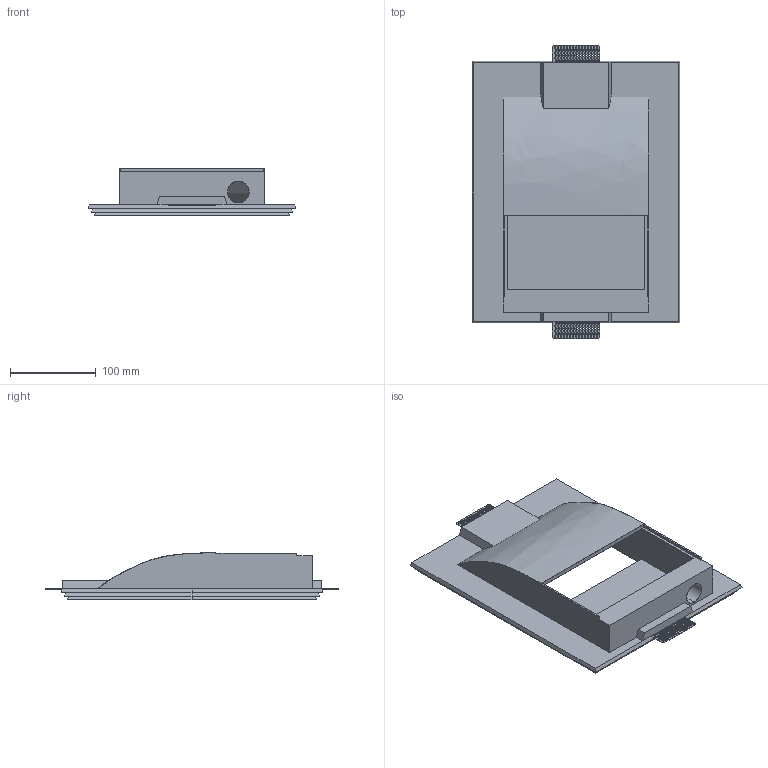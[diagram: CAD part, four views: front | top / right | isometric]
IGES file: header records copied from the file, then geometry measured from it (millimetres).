
Start section: SolidWorks IGES file using analytic representation for surfaces
Global section: file name: \\USINE\Dimitri\CATALOGUE SEDAP\Gamme Sedap\3225 - Quadrat 15x15\proto\3225.IGS; native system: SolidWorks 2016; preprocessor: SolidWorks 2016; author: Dimitri; date: 161216.144439; units: millimetre
Bounding box: 242 x 342 x 55 mm (x, y, z)
Surface area: 227005 mm2 (no closed solid volume)
Topology: 0 solids, 0 shells, 433 faces, 13566 edges, 13566 vertices
Faces by surface type: revolution 366, bspline 67
